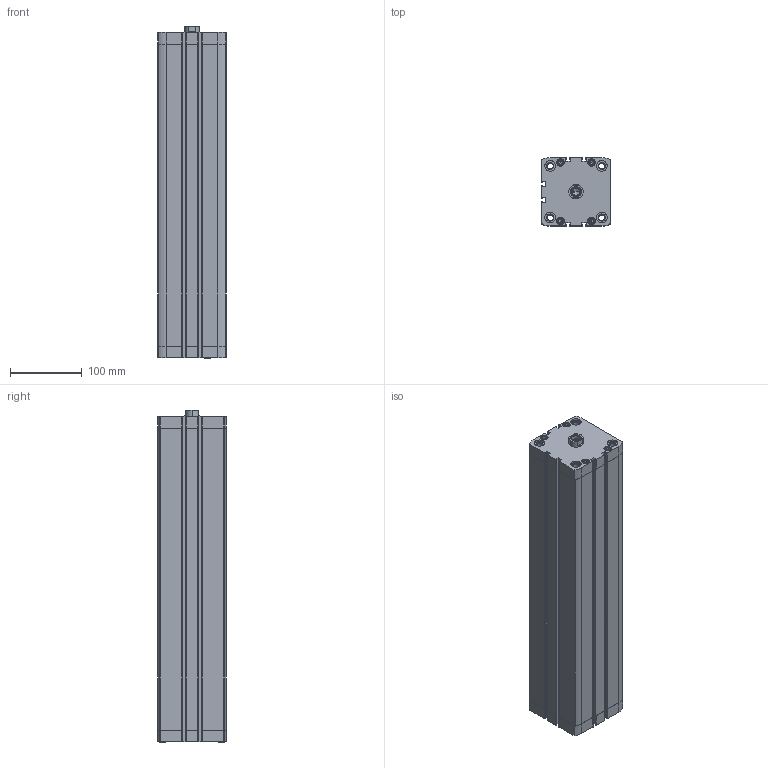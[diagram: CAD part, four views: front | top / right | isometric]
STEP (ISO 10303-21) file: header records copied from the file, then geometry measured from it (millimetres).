
FILE_DESCRIPTION (( 'STEP AP203' ), '1' );
FILE_NAME ('CCN80-400F.STEP', '2017-04-05T20:03:37', ( '' ), ( '' ), 'SwSTEP 2.0', 'SolidWorks 2016', '' );
FILE_SCHEMA (( 'CONFIG_CONTROL_DESIGN' ));
Length unit declared in the file: millimetre
Products named in the file (3): CCN-400---(Z); CCN-400_(KS); CCN80-400F
Assembly tree (2 placements, depth 2):
  CCN80-400F
    CCN-400---(Z)
    CCN-400_(KS)
Bounding box: 95.5 x 95.5 x 462.9 mm (x, y, z)
Volume: 1992600.5 mm3; surface area: 430462.6 mm2
Topology: 2 solids, 2 shells, 487 faces, 1234 edges, 781 vertices
Faces by surface type: plane 227, cylinder 186, cone 74
Entity records: 15301 total; most frequent: CARTESIAN_POINT 3039, DIRECTION 2620, ORIENTED_EDGE 2432, EDGE_CURVE 1216, AXIS2_PLACEMENT_3D 978, VERTEX_POINT 781, LINE 664, VECTOR 664
